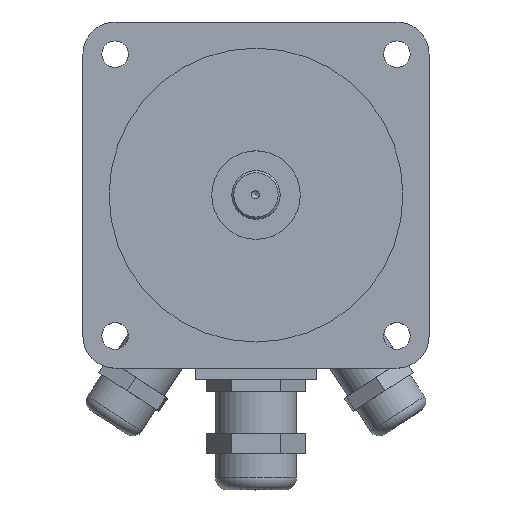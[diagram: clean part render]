
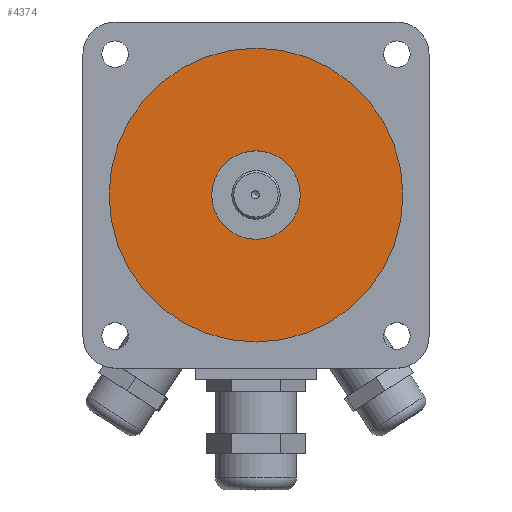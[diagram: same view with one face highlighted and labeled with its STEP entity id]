
A CAD part, top view. The second image highlights one B-rep face of the part: STEP entity #4374.
In plain terms, the highlighted planar face has unit normal (0, 0, 1).
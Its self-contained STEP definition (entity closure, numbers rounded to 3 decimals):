
#4347=CARTESIAN_POINT('',(-69.773,-89.811,85.505));
#4348=DIRECTION('',(0.0,0.0,-1.0));
#4349=DIRECTION('',(1.0,0.0,0.0));
#4350=AXIS2_PLACEMENT_3D('',#4347,#4348,#4349);
#4351=PLANE('',#4350);
#4352=CARTESIAN_POINT('',(-106.273,-89.811,85.505));
#4353=VERTEX_POINT('',#4352);
#4354=CARTESIAN_POINT('',(-69.773,-89.811,85.505));
#4355=DIRECTION('',(0.0,0.0,-1.0));
#4356=DIRECTION('',(1.0,0.0,0.0));
#4357=AXIS2_PLACEMENT_3D('',#4354,#4355,#4356);
#4358=CIRCLE('',#4357,36.5);
#4359=EDGE_CURVE('',#4353,#4353,#4358,.T.);
#4360=ORIENTED_EDGE('',*,*,#4359,.F.);
#4361=EDGE_LOOP('',(#4360));
#4362=FACE_OUTER_BOUND('',#4361,.T.);
#4363=CARTESIAN_POINT('',(-80.773,-89.811,85.505));
#4364=VERTEX_POINT('',#4363);
#4365=CARTESIAN_POINT('',(-69.773,-89.811,85.505));
#4366=DIRECTION('',(0.0,0.0,-1.0));
#4367=DIRECTION('',(1.0,0.0,0.0));
#4368=AXIS2_PLACEMENT_3D('',#4365,#4366,#4367);
#4369=CIRCLE('',#4368,11.0);
#4370=EDGE_CURVE('',#4364,#4364,#4369,.T.);
#4371=ORIENTED_EDGE('',*,*,#4370,.T.);
#4372=EDGE_LOOP('',(#4371));
#4373=FACE_BOUND('',#4372,.T.);
#4374=ADVANCED_FACE('',(#4362,#4373),#4351,.F.);
